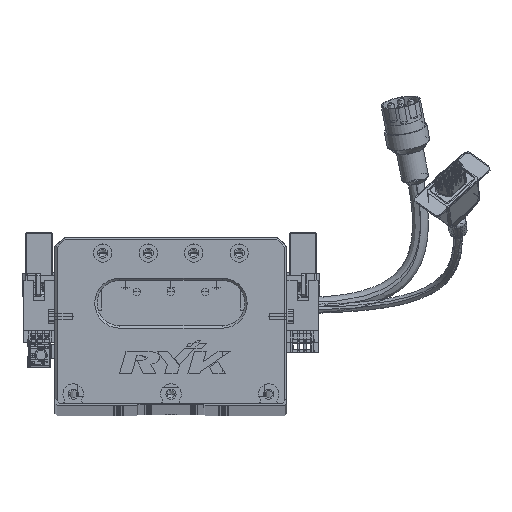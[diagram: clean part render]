
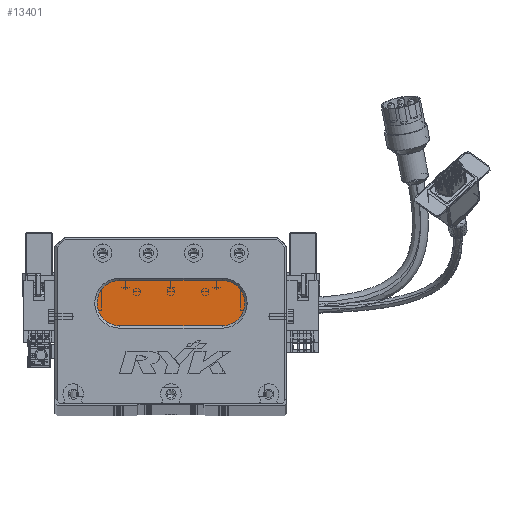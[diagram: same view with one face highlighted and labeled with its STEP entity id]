
A CAD part, top view. The second image highlights one B-rep face of the part: STEP entity #13401.
In plain terms, the highlighted planar face has unit normal (0, 0, 1) as drawn and (0, 0, -1) by its records, which use the part's own axes.
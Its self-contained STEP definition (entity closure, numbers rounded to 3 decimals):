
#2847 = VERTEX_POINT ( 'NONE', #34267 ) ;
#4558 = CARTESIAN_POINT ( 'NONE',  ( 73.5, 34., 13. ) ) ;
#8282 = PLANE ( 'NONE',  #61652 ) ;
#11388 = AXIS2_PLACEMENT_3D ( 'NONE', #21729, #21150, #14577 ) ;
#13401 = ADVANCED_FACE ( 'NONE', ( #22344 ), #8282, .T. ) ;
#13411 = VECTOR ( 'NONE', #34154, 1000. ) ;
#14577 = DIRECTION ( 'NONE',  ( -1., 0., 0. ) ) ;
#17418 = CARTESIAN_POINT ( 'NONE',  ( 73.5, 54., 13. ) ) ;
#18605 = VERTEX_POINT ( 'NONE', #17418 ) ;
#21150 = DIRECTION ( 'NONE',  ( 0., 0., -1. ) ) ;
#21729 = CARTESIAN_POINT ( 'NONE',  ( 28.5, 44., 13. ) ) ;
#22344 = FACE_OUTER_BOUND ( 'NONE', #72203, .T. ) ;
#23071 = ORIENTED_EDGE ( 'NONE', *, *, #59830, .T. ) ;
#27833 = EDGE_CURVE ( 'NONE', #35941, #18605, #49514, .T. ) ;
#29056 = DIRECTION ( 'NONE',  ( -1., 0., 0. ) ) ;
#29332 = CARTESIAN_POINT ( 'NONE',  ( 73.5, 44., 13. ) ) ;
#30343 = ORIENTED_EDGE ( 'NONE', *, *, #31408, .T. ) ;
#31408 = EDGE_CURVE ( 'NONE', #2847, #43446, #63967, .T. ) ;
#33736 = DIRECTION ( 'NONE',  ( -1., 0., 0. ) ) ;
#33771 = CARTESIAN_POINT ( 'NONE',  ( 18.5, 44., 13. ) ) ;
#34154 = DIRECTION ( 'NONE',  ( 1., 0., 0. ) ) ;
#34267 = CARTESIAN_POINT ( 'NONE',  ( 28.5, 34., 13. ) ) ;
#35281 = EDGE_CURVE ( 'NONE', #57511, #2847, #44004, .T. ) ;
#35800 = EDGE_CURVE ( 'NONE', #43446, #35941, #54564, .T. ) ;
#35941 = VERTEX_POINT ( 'NONE', #87307 ) ;
#38378 = CARTESIAN_POINT ( 'NONE',  ( 28.5, 44., 13. ) ) ;
#41688 = ORIENTED_EDGE ( 'NONE', *, *, #35800, .T. ) ;
#43446 = VERTEX_POINT ( 'NONE', #33771 ) ;
#44004 = LINE ( 'NONE', #46481, #73750 ) ;
#44609 = DIRECTION ( 'NONE',  ( 0., 0., -1. ) ) ;
#45191 = DIRECTION ( 'NONE',  ( -1., 0., 0. ) ) ;
#46481 = CARTESIAN_POINT ( 'NONE',  ( 73.5, 34., 13. ) ) ;
#49514 = LINE ( 'NONE', #82750, #13411 ) ;
#52904 = ORIENTED_EDGE ( 'NONE', *, *, #27833, .T. ) ;
#54564 = CIRCLE ( 'NONE', #81570, 10. ) ;
#57511 = VERTEX_POINT ( 'NONE', #4558 ) ;
#59140 = DIRECTION ( 'NONE',  ( -1., 0., 0. ) ) ;
#59830 = EDGE_CURVE ( 'NONE', #18605, #57511, #84851, .T. ) ;
#61422 = AXIS2_PLACEMENT_3D ( 'NONE', #65387, #44609, #59140 ) ;
#61652 = AXIS2_PLACEMENT_3D ( 'NONE', #29332, #82153, #29056 ) ;
#63948 = ORIENTED_EDGE ( 'NONE', *, *, #35281, .T. ) ;
#63967 = CIRCLE ( 'NONE', #11388, 10. ) ;
#65387 = CARTESIAN_POINT ( 'NONE',  ( 73.5, 44., 13. ) ) ;
#72203 = EDGE_LOOP ( 'NONE', ( #23071, #63948, #30343, #41688, #52904 ) ) ;
#72781 = DIRECTION ( 'NONE',  ( 0., 0., -1. ) ) ;
#73750 = VECTOR ( 'NONE', #33736, 1000. ) ;
#81570 = AXIS2_PLACEMENT_3D ( 'NONE', #38378, #72781, #45191 ) ;
#82153 = DIRECTION ( 'NONE',  ( 0., 0., -1. ) ) ;
#82750 = CARTESIAN_POINT ( 'NONE',  ( 73.5, 54., 13. ) ) ;
#84851 = CIRCLE ( 'NONE', #61422, 10. ) ;
#87307 = CARTESIAN_POINT ( 'NONE',  ( 28.5, 54., 13. ) ) ;
